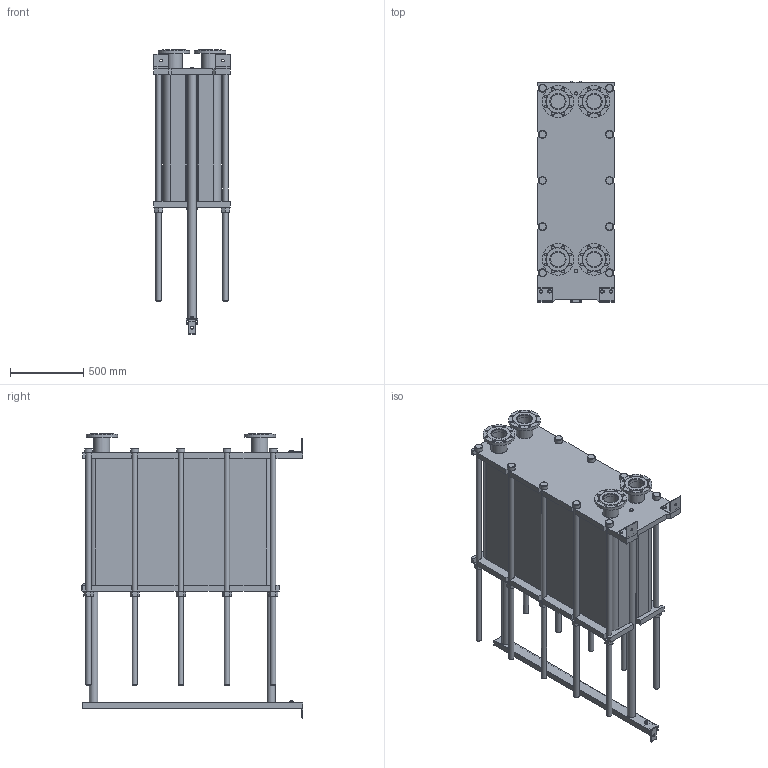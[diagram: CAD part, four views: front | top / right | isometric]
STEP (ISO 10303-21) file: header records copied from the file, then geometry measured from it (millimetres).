
FILE_DESCRIPTION(/* description */ (''),/* implementation_level */ '2;1');
FILE_NAME(/* name */ 'C:\Users\zhuro\Desktop\ENCO\TO\ЭН-04\ЭН-0,5-04-250-1.stp',/* time_stamp */ '2022-06-06T11:06:47+03:00',/* author */ ('zhuro'),/* organization */ (''),/* preprocessor_version */ 'ST-DEVELOPER v18.1',/* originating_system */ 'Autodesk Inventor 2022',/* authorisation */ '');
FILE_SCHEMA (('AUTOMOTIVE_DESIGN { 1 0 10303 214 3 1 1 }'));
Length unit declared in the file: millimetre
Products named in the file (1): ЭН-0,5-04-250-1
Bounding box: 520 x 1510 x 1940 mm (x, y, z)
Volume: 510320196.6 mm3; surface area: 11653776.1 mm2
Topology: 45 solids, 45 shells, 668 faces, 1611 edges, 1048 vertices
Faces by surface type: plane 457, cylinder 166, cone 39, torus 6
Full cylindrical faces by diameter (mm): 8 x4, 10 x2, 16 x8, 18 x35, 36 x25, 40 x2, 42 x1, 45 x4, 54 x10, 57 x2, 60 x10, 68 x2, 100 x4, 110 x8, 215 x4
Entity records: 23607 total; most frequent: CARTESIAN_POINT 7348, DIRECTION 3371, ORIENTED_EDGE 3142, EDGE_CURVE 1571, AXIS2_PLACEMENT_3D 1199, VERTEX_POINT 1044, LINE 973, VECTOR 973
